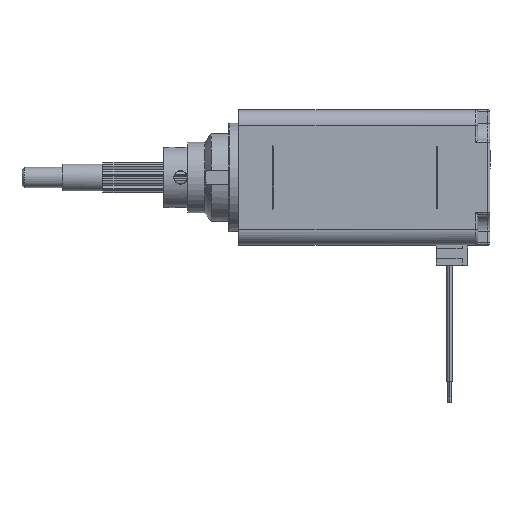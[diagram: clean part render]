
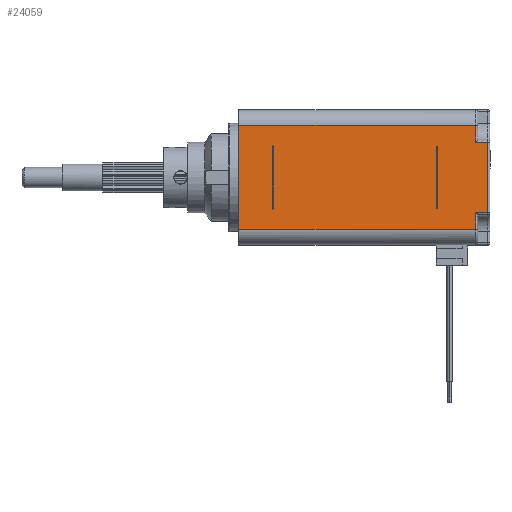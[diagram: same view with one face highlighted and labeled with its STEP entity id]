
A CAD part, top view. The second image highlights one B-rep face of the part: STEP entity #24059.
In plain terms, the highlighted planar face has unit normal (0, 0, 1).
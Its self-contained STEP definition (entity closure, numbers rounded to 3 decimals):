
#5984=CARTESIAN_POINT('',(4.94,-4.583,10.));
#5985=VERTEX_POINT('',#5984);
#5986=CARTESIAN_POINT('',(5.125,-4.583,10.));
#5987=VERTEX_POINT('',#5986);
#5988=CARTESIAN_POINT('',(4.94,-4.583,10.));
#5989=DIRECTION('',(1.,0.,0.));
#5990=VECTOR('',#5989,0.185);
#5991=LINE('',#5988,#5990);
#5992=EDGE_CURVE('',#5985,#5987,#5991,.T.);
#6043=CARTESIAN_POINT('',(4.94,4.583,10.));
#6044=VERTEX_POINT('',#6043);
#6079=CARTESIAN_POINT('',(5.125,4.583,10.));
#6080=VERTEX_POINT('',#6079);
#6088=CARTESIAN_POINT('',(5.125,4.583,10.));
#6089=DIRECTION('',(-1.,0.,0.));
#6090=VECTOR('',#6089,0.185);
#6091=LINE('',#6088,#6090);
#6092=EDGE_CURVE('',#6080,#6044,#6091,.T.);
#6469=CARTESIAN_POINT('',(4.94,4.583,10.));
#6470=DIRECTION('',(0.,-1.,0.));
#6471=VECTOR('',#6470,9.165);
#6472=LINE('',#6469,#6471);
#6473=EDGE_CURVE('',#6044,#5985,#6472,.T.);
#7131=CARTESIAN_POINT('',(0.,-7.7,10.));
#7132=VERTEX_POINT('',#7131);
#7140=CARTESIAN_POINT('',(0.,7.7,10.));
#7141=VERTEX_POINT('',#7140);
#7142=CARTESIAN_POINT('',(0.,-7.7,10.));
#7143=DIRECTION('',(0.,1.,0.));
#7144=VECTOR('',#7143,15.4);
#7145=LINE('',#7142,#7144);
#7146=EDGE_CURVE('',#7132,#7141,#7145,.T.);
#8993=CARTESIAN_POINT('',(5.125,-4.583,10.));
#8994=DIRECTION('',(0.,1.,0.));
#8995=VECTOR('',#8994,9.165);
#8996=LINE('',#8993,#8995);
#8997=EDGE_CURVE('',#5987,#6080,#8996,.T.);
#22716=CARTESIAN_POINT('',(35.07,7.7,10.));
#22717=VERTEX_POINT('',#22716);
#22733=CARTESIAN_POINT('',(0.,7.7,10.));
#22734=DIRECTION('',(1.,0.,0.));
#22735=VECTOR('',#22734,35.07);
#22736=LINE('',#22733,#22735);
#22737=EDGE_CURVE('',#7141,#22717,#22736,.T.);
#22749=CARTESIAN_POINT('',(35.07,-7.7,10.));
#22750=VERTEX_POINT('',#22749);
#22757=CARTESIAN_POINT('',(35.07,-7.7,10.));
#22758=DIRECTION('',(-1.,0.,0.));
#22759=VECTOR('',#22758,35.07);
#22760=LINE('',#22757,#22759);
#22761=EDGE_CURVE('',#22750,#7132,#22760,.T.);
#22943=CARTESIAN_POINT('',(29.275,4.583,10.));
#22944=VERTEX_POINT('',#22943);
#22952=CARTESIAN_POINT('',(29.275,-4.583,10.));
#22953=VERTEX_POINT('',#22952);
#22954=CARTESIAN_POINT('',(29.275,4.583,10.));
#22955=DIRECTION('',(0.,-1.,0.));
#22956=VECTOR('',#22955,9.165);
#22957=LINE('',#22954,#22956);
#22958=EDGE_CURVE('',#22944,#22953,#22957,.T.);
#23440=CARTESIAN_POINT('',(29.46,4.583,10.));
#23441=VERTEX_POINT('',#23440);
#23449=CARTESIAN_POINT('',(29.46,4.583,10.));
#23450=DIRECTION('',(-1.,0.,0.));
#23451=VECTOR('',#23450,0.185);
#23452=LINE('',#23449,#23451);
#23453=EDGE_CURVE('',#23441,#22944,#23452,.T.);
#23465=CARTESIAN_POINT('',(29.46,-4.583,10.));
#23466=VERTEX_POINT('',#23465);
#23476=CARTESIAN_POINT('',(29.275,-4.583,10.));
#23477=DIRECTION('',(1.,0.,0.));
#23478=VECTOR('',#23477,0.185);
#23479=LINE('',#23476,#23478);
#23480=EDGE_CURVE('',#22953,#23466,#23479,.T.);
#23585=CARTESIAN_POINT('',(29.46,-4.583,10.));
#23586=DIRECTION('',(0.,1.,0.));
#23587=VECTOR('',#23586,9.165);
#23588=LINE('',#23585,#23587);
#23589=EDGE_CURVE('',#23466,#23441,#23588,.T.);
#23997=CARTESIAN_POINT('',(18.1,0.,10.));
#23998=DIRECTION('',(0.,-1.,0.));
#23999=DIRECTION('',(-0.,0.,1.));
#24000=AXIS2_PLACEMENT_3D('',#23997,#23999,#23998);
#24001=PLANE('',#24000);
#24002=CARTESIAN_POINT('',(35.07,-5.2,10.));
#24003=VERTEX_POINT('',#24002);
#24004=CARTESIAN_POINT('',(35.07,-7.7,10.));
#24005=DIRECTION('',(0.,1.,0.));
#24006=VECTOR('',#24005,2.5);
#24007=LINE('',#24004,#24006);
#24008=EDGE_CURVE('',#22750,#24003,#24007,.T.);
#24009=ORIENTED_EDGE('E2117',*,*,#24008,.T.);
#24010=CARTESIAN_POINT('',(36.9,-5.2,10.));
#24011=VERTEX_POINT('',#24010);
#24012=CARTESIAN_POINT('',(35.07,-5.2,10.));
#24013=DIRECTION('',(1.,0.,0.));
#24014=VECTOR('',#24013,1.83);
#24015=LINE('',#24012,#24014);
#24016=EDGE_CURVE('',#24003,#24011,#24015,.T.);
#24017=ORIENTED_EDGE('E2118',*,*,#24016,.T.);
#24018=CARTESIAN_POINT('',(36.9,5.2,10.));
#24019=VERTEX_POINT('',#24018);
#24020=CARTESIAN_POINT('',(36.9,-5.2,10.));
#24021=DIRECTION('',(0.,1.,0.));
#24022=VECTOR('',#24021,10.4);
#24023=LINE('',#24020,#24022);
#24024=EDGE_CURVE('',#24011,#24019,#24023,.T.);
#24025=ORIENTED_EDGE('E2119',*,*,#24024,.T.);
#24026=CARTESIAN_POINT('',(35.07,5.2,10.));
#24027=VERTEX_POINT('',#24026);
#24028=CARTESIAN_POINT('',(36.9,5.2,10.));
#24029=DIRECTION('',(-1.,0.,0.));
#24030=VECTOR('',#24029,1.83);
#24031=LINE('',#24028,#24030);
#24032=EDGE_CURVE('',#24019,#24027,#24031,.T.);
#24033=ORIENTED_EDGE('E2120',*,*,#24032,.T.);
#24034=CARTESIAN_POINT('',(35.07,5.2,10.));
#24035=CARTESIAN_POINT('',(35.07,5.294,10.));
#24036=CARTESIAN_POINT('',(35.07,5.648,10.));
#24037=CARTESIAN_POINT('',(35.07,6.804,10.));
#24038=CARTESIAN_POINT('',(35.07,7.7,10.));
#24039=B_SPLINE_CURVE_WITH_KNOTS('',2,(#24034,#24035,#24036,#24037,#24038),.UNSPECIFIED.,.F.,.U.,(3,1,1,3),(0.,0.012,0.045,0.157),.UNSPECIFIED.);
#24040=EDGE_CURVE('',#24027,#22717,#24039,.T.);
#24041=ORIENTED_EDGE('E2121',*,*,#24040,.T.);
#24042=ORIENTED_EDGE('E2121',*,*,#22737,.F.);
#24043=ORIENTED_EDGE('E2121',*,*,#7146,.F.);
#24044=ORIENTED_EDGE('E2121',*,*,#22761,.F.);
#24045=EDGE_LOOP('',(#24009,#24017,#24025,#24033,#24041,#24042,#24043,#24044));
#24046=FACE_OUTER_BOUND('',#24045,.T.);
#24047=ORIENTED_EDGE('',*,*,#8997,.F.);
#24048=ORIENTED_EDGE('',*,*,#5992,.F.);
#24049=ORIENTED_EDGE('',*,*,#6473,.F.);
#24050=ORIENTED_EDGE('',*,*,#6092,.F.);
#24051=EDGE_LOOP('',(#24047,#24048,#24049,#24050));
#24052=FACE_BOUND('',#24051,.T.);
#24053=ORIENTED_EDGE('',*,*,#22958,.F.);
#24054=ORIENTED_EDGE('',*,*,#23453,.F.);
#24055=ORIENTED_EDGE('',*,*,#23589,.F.);
#24056=ORIENTED_EDGE('',*,*,#23480,.F.);
#24057=EDGE_LOOP('',(#24053,#24054,#24055,#24056));
#24058=FACE_BOUND('',#24057,.T.);
#24059=ADVANCED_FACE('F693',(#24046,#24052,#24058),#24001,.T.);
